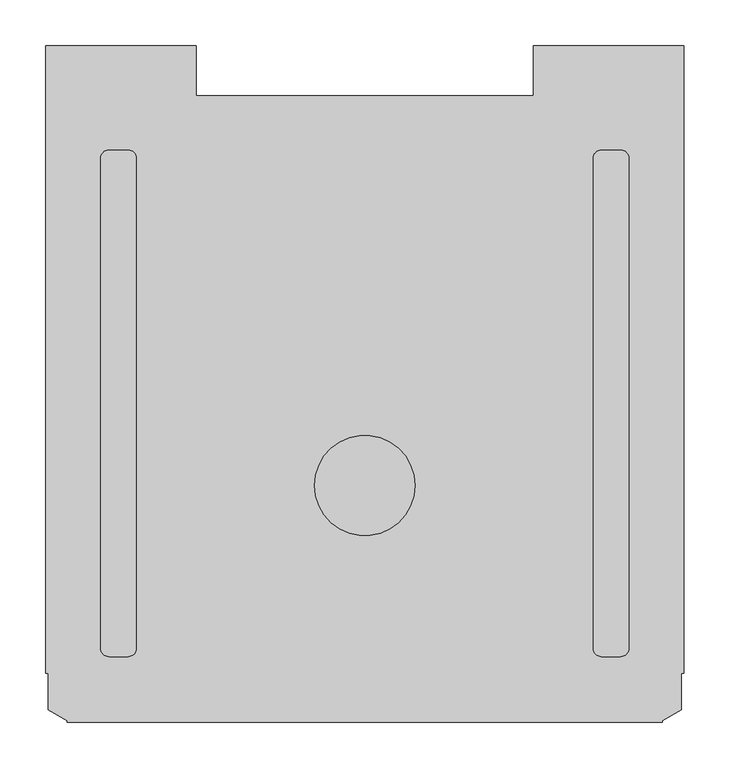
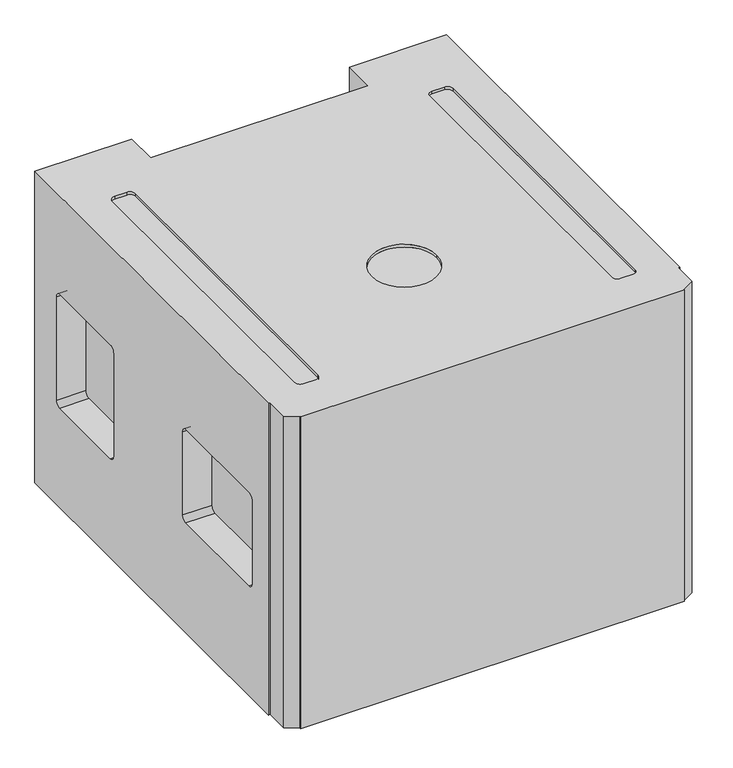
"""IFC4 building model written with IfcOpenShell, lengths in millimetres: proxy geometry, d&b SL-Series XSL-GSUB : XSL-GSUB."""

import ifcopenshell
import ifcopenshell.guid

model = None  # the IFC model being written
_history = None  # IfcOwnerHistory: only IFC2X3 demands one
_inside = {}  # id of a spatial element -> (the spatial element, [elements in it])
_under = {}  # id of a project, library or spatial element -> (it, [spatial elements below it])
_declared = {}  # id of a project -> (the project, [libraries it declares])
_typed = {}  # id of a type object -> (the type object, [elements of that type])
_made_of = {}  # id of a material, layer set ... -> (it, [elements and type objects made of it])


def new_model(schema):
    """Start an empty IFC model of exactly this schema.

    Asked for "IFC4X3", IfcOpenShell would pick the latest addendum, in which some entities
    have other attributes; the version numbers below select the first issue.
    IFC2X3 requires an IfcOwnerHistory on every rooted entity: one is made here for all.
    """
    global model, _history
    if schema == "IFC4X3":
        model = ifcopenshell.file(schema_version=(4, 3, 0, 0))
    else:
        model = ifcopenshell.file(schema=schema)
    _inside.clear()
    _under.clear()
    _declared.clear()
    _typed.clear()
    _made_of.clear()
    _history = None
    if model.schema == "IFC2X3":
        org = make("IfcOrganization", Name="unknown")
        user = make(
            "IfcPersonAndOrganization",
            ThePerson=make("IfcPerson", FamilyName="unknown"),
            TheOrganization=org,
        )
        app = make(
            "IfcApplication",
            ApplicationDeveloper=org,
            Version="unknown",
            ApplicationFullName="unknown",
            ApplicationIdentifier="unknown",
        )
        _history = make(
            "IfcOwnerHistory",
            OwningUser=user,
            OwningApplication=app,
            ChangeAction="ADDED",
            CreationDate=0,
        )
    return model


def make(cls, **values):
    """One entity of the class cls with the attributes given. An attribute that is None is left unset."""
    return model.create_entity(
        cls, **{name: value for name, value in values.items() if value is not None}
    )


def rooted(cls, **values):
    """An entity with a GlobalId (a new one), such as an element, a storey or a relation."""
    return make(cls, GlobalId=ifcopenshell.guid.new(), OwnerHistory=_history, **values)


def si_unit(unit_type, name, prefix=None):
    """IfcSIUnit, for example si_unit("LENGTHUNIT", "METRE", prefix="MILLI")."""
    return make("IfcSIUnit", UnitType=unit_type, Prefix=prefix, Name=name)


def assignment(units):
    """IfcUnitAssignment: the units of a project."""
    return None if units is None else make("IfcUnitAssignment", Units=units)


def point(xyz):
    """IfcCartesianPoint."""
    return None if xyz is None else make("IfcCartesianPoint", Coordinates=xyz)


def direction(xyz):
    """IfcDirection."""
    return None if xyz is None else make("IfcDirection", DirectionRatios=xyz)


def frame(location, z_axis=None, x_axis=None):
    """IfcAxis2Placement3D, a coordinate frame: its origin and axes. An axis left out is left unset."""
    return make(
        "IfcAxis2Placement3D",
        Location=point(location),
        Axis=direction(z_axis),
        RefDirection=direction(x_axis),
    )


def origin():
    """The frame at (0, 0, 0) with its axes left unset."""
    return frame((0.0, 0.0, 0.0))


def place(relative_to, where):
    """IfcLocalPlacement: puts the frame where relative to a parent placement (None: the world)."""
    return make(
        "IfcLocalPlacement", PlacementRelTo=relative_to, RelativePlacement=where
    )


def context(
    kind, dimensions, precision=None, world=None, true_north=None, identifier=None
):
    """IfcGeometricRepresentationContext, for example the 3D "Model" context."""
    return make(
        "IfcGeometricRepresentationContext",
        ContextIdentifier=identifier,
        ContextType=kind,
        CoordinateSpaceDimension=dimensions,
        Precision=precision,
        WorldCoordinateSystem=world,
        TrueNorth=true_north,
    )


def project(units=None, contexts=None):
    """IfcProject with its units and contexts."""
    return rooted(
        "IfcProject",
        Name="project",
        RepresentationContexts=contexts,
        UnitsInContext=assignment(units),
    )


def spatial(cls, under=None, at=None, **own):
    """A site, building, storey or space (cls), placed at a placement, below another one or the project."""
    s = rooted(cls, ObjectPlacement=at, **own)
    if under is not None:
        _under.setdefault(under.id(), (under, []))[1].append(s)
    return s


def polyline(points):
    """IfcPolyline through the points."""
    return make("IfcPolyline", Points=[point(p) for p in points])


def circle_curve(where, radius):
    """IfcCircle in the frame where."""
    return make("IfcCircle", Position=where, Radius=radius)


def outline(outer, holes=None, kind="AREA"):
    """IfcArbitraryClosedProfileDef: a profile drawn as a closed curve; with holes, ...WithVoids."""
    if holes is None:
        return make("IfcArbitraryClosedProfileDef", ProfileType=kind, OuterCurve=outer)
    return make(
        "IfcArbitraryProfileDefWithVoids",
        ProfileType=kind,
        OuterCurve=outer,
        InnerCurves=holes,
    )


def extrude(swept, where, along, depth):
    """IfcExtrudedAreaSolid: the profile swept, set in the frame where, extruded along a direction by depth."""
    return make(
        "IfcExtrudedAreaSolid",
        SweptArea=swept,
        Position=where,
        ExtrudedDirection=direction(along),
        Depth=depth,
    )


def shape(context_of_items, identifier, shape_type, items):
    """IfcShapeRepresentation: the items that make up one representation, for example the "Body"."""
    return make(
        "IfcShapeRepresentation",
        ContextOfItems=context_of_items,
        RepresentationIdentifier=identifier,
        RepresentationType=shape_type,
        Items=items,
    )


def source(mapping_origin, context_of_items, identifier, shape_type, items):
    """IfcRepresentationMap: a shape defined once, which mapped items show again and again."""
    return make(
        "IfcRepresentationMap",
        MappingOrigin=mapping_origin,
        MappedRepresentation=shape(context_of_items, identifier, shape_type, items),
    )


def transform(
    local_origin,
    x_axis=None,
    y_axis=None,
    z_axis=None,
    scale=None,
    scale2=None,
    scale3=None,
    uniform=True,
):
    """IfcCartesianTransformationOperator3D, or its non-uniform kind. x_axis, y_axis, z_axis: its Axis1, 2, 3."""
    if uniform:
        return make(
            "IfcCartesianTransformationOperator3D",
            Axis1=direction(x_axis),
            Axis2=direction(y_axis),
            LocalOrigin=point(local_origin),
            Scale=scale,
            Axis3=direction(z_axis),
        )
    return make(
        "IfcCartesianTransformationOperator3DnonUniform",
        Axis1=direction(x_axis),
        Axis2=direction(y_axis),
        LocalOrigin=point(local_origin),
        Scale=scale,
        Axis3=direction(z_axis),
        Scale2=scale2,
        Scale3=scale3,
    )


def mapped(mapping_source, mapping_target):
    """IfcMappedItem: shows the shape of a source again, moved by a transform."""
    return make(
        "IfcMappedItem", MappingSource=mapping_source, MappingTarget=mapping_target
    )


def made_of(thing, what):
    """Note that an element or type object is made of a material, layer set ...; save() writes the relation."""
    if what is not None:
        _made_of.setdefault(what.id(), (what, []))[1].append(thing)
    return thing


def element(
    cls,
    number,
    at=None,
    inside=None,
    cuts=None,
    type_object=None,
    material=None,
    context=None,
    identifier="Body",
    shape_type=None,
    held_by="IfcProductDefinitionShape",
    body=None,
    shapes=None,
    **own,
):
    """One element of the class cls, such as IfcWall. Its Tag is "e" and its number.

    at: its placement. inside: the storey or other place that contains it. cuts: it is an
    opening in that element (IfcRelVoidsElement). A single representation is given by context,
    identifier, shape_type and body (its items); several are given by shapes. held_by: the class
    of the entity that holds the representations. save() writes the other relations.
    """
    e = rooted(cls, Tag="e%d" % number, ObjectPlacement=at, **own)
    if body is not None:
        shapes = [shape(context, identifier, shape_type, body)]
    if shapes is not None:
        e.Representation = make(held_by, Representations=shapes)
    if inside is not None:
        _inside.setdefault(inside.id(), (inside, []))[1].append(e)
    if cuts is not None:
        rooted(
            "IfcRelVoidsElement", RelatingBuildingElement=cuts, RelatedOpeningElement=e
        )
    if type_object is not None:
        _typed.setdefault(type_object.id(), (type_object, []))[1].append(e)
    return made_of(e, material)


def aggregate(whole, parts):
    """IfcRelAggregates: a whole, such as a stair, and the parts it consists of."""
    return rooted("IfcRelAggregates", RelatingObject=whole, RelatedObjects=parts)


def save(model, path):
    """Write the relations noted so far, then the file.

    IfcRelAggregates (storeys below a building ...), IfcRelContainedInSpatialStructure (elements
    in a storey), IfcRelDefinesByType, IfcRelAssociatesMaterial and IfcRelDeclares: one each for
    every whole, place, type object, material and project.
    """
    for whole, parts in _under.values():
        aggregate(whole, parts)
    for where, things in _inside.values():
        rooted(
            "IfcRelContainedInSpatialStructure",
            RelatedElements=things,
            RelatingStructure=where,
        )
    for kind, things in _typed.values():
        rooted("IfcRelDefinesByType", RelatedObjects=things, RelatingType=kind)
    for what, things in _made_of.values():
        rooted("IfcRelAssociatesMaterial", RelatedObjects=things, RelatingMaterial=what)
    for by, libraries in _declared.values():
        rooted("IfcRelDeclares", RelatingContext=by, RelatedDefinitions=libraries)
    model.write(path)


def plane_surface(at):
    """IfcPlane: the flat surface through the origin of the frame at, square to its z axis."""
    return make("IfcPlane", Position=at)


def revolved_surface(curve, axis_point, axis_direction):
    """IfcSurfaceOfRevolution: the curve turned about the line through axis_point along axis_direction."""
    return make(
        "IfcSurfaceOfRevolution",
        SweptCurve=make("IfcArbitraryOpenProfileDef", ProfileType="CURVE", Curve=curve),
        AxisPosition=make("IfcAxis1Placement", Location=point(axis_point), Axis=direction(axis_direction)),
    )


def advanced_brep(points, edges, surfaces, faces):
    """IfcAdvancedBrep: a solid bounded by faces that lie on surfaces and meet in shared edges.

    An edge is (start, end): straight between two places in points (the first is 0);
    or (start, end, curve); or (start, end, curve, False) where it runs against its curve.
    A face is (place in surfaces, loops), or (place, loops, False) where it looks against
    its surface's normal. A loop lists edges by number (the first is 1), with a minus sign
    where the edge is run from its end to its start. The first loop is the outer one.
    """
    corners = [point(p) for p in points]
    vertices = [make("IfcVertexPoint", VertexGeometry=c) for c in corners]
    made = []
    for start, end, *more in edges:
        made.append(
            make(
                "IfcEdgeCurve",
                EdgeStart=vertices[start],
                EdgeEnd=vertices[end],
                EdgeGeometry=more[0] if more else make("IfcPolyline", Points=[corners[start], corners[end]]),
                SameSense=more[1] if len(more) > 1 else True,
            )
        )
    hull = []
    for where, loops, *sense in faces:
        bounds = []
        for j, loop in enumerate(loops):
            ring = [make("IfcOrientedEdge", EdgeElement=made[abs(k) - 1], Orientation=k > 0) for k in loop]
            bounds.append(
                make(
                    "IfcFaceOuterBound" if j == 0 else "IfcFaceBound",
                    Bound=make("IfcEdgeLoop", EdgeList=ring),
                    Orientation=True,
                )
            )
        hull.append(make("IfcAdvancedFace", Bounds=bounds, FaceSurface=surfaces[where], SameSense=sense[0] if sense else True))
    return make("IfcAdvancedBrep", Outer=make("IfcClosedShell", CfsFaces=hull))


def communication_devices_2013cf00(model_context):
    return source(origin(), model_context, "Body", "SolidModel", [
        advanced_brep(
        [(2173.5, -29.2494027, 5.0), (2173.5, -27.5173519, 5.0), (2153.0, -15.6816714, 5.0), (2153.0, 24.2505973, 5.0), (2150.0, 24.2505973, 5.0), (2150.0, 712.2505973, 5.0), (2315.0, 712.2505973, 5.0), (2315.0, 657.2503532, 5.0), (2685.0, 657.2503532, 5.0), (2685.0, 712.2505973, 5.0), (2850.0, 712.2505973, 5.0), (2850.0, 24.2505973, 5.0), (2847.0, 24.2505973, 5.0), (2847.0, -15.6816714, 5.0), (2826.5, -27.5173519, 5.0), (2826.5, -29.2494027, 5.0), (2249.5, 588.7503532, 560.0), (2240.5, 597.7503532, 560.0), (2219.5, 597.7503532, 560.0), (2210.5, 588.7503532, 560.0), (2210.5, 51.7505973, 560.0), (2219.5, 42.7505973, 560.0), (2240.5, 42.7505973, 560.0), (2249.5, 51.7505973, 560.0), (2780.5, 597.7503532, 560.0), (2759.5, 597.7503532, 560.0), (2750.5, 588.7503532, 560.0), (2750.5, 51.7505973, 560.0), (2759.5, 42.7505973, 560.0), (2780.5, 42.7505973, 560.0), (2789.5, 51.7505973, 560.0), (2789.5, 588.7503532, 560.0), (2555.0, 230.2504752, 560.0), (2445.0, 230.2504752, 560.0), (2315.0, 712.2505973, 565.0), (2150.0, 712.2505973, 565.0), (2150.0, 24.2505973, 565.0), (2153.0, 24.2505973, 565.0), (2153.0, -15.6816714, 565.0), (2173.5, -27.5173519, 565.0), (2173.5, -29.2494027, 565.0), (2826.5, -29.2494027, 565.0), (2826.5, -27.5173519, 565.0), (2847.0, -15.6816714, 565.0), (2847.0, 24.2505973, 565.0), (2850.0, 24.2505973, 565.0), (2850.0, 712.2505973, 565.0), (2685.0, 712.2505973, 565.0), (2685.0, 657.2503532, 565.0), (2315.0, 657.2503532, 565.0), (2240.5, 597.7503532, 565.0), (2249.5, 588.7503532, 565.0), (2249.5, 51.7505973, 565.0), (2240.5, 42.7505973, 565.0), (2219.5, 42.7505973, 565.0), (2210.5, 51.7505973, 565.0), (2210.5, 588.7503532, 565.0), (2219.5, 597.7503532, 565.0), (2759.5, 597.7503532, 565.0), (2780.5, 597.7503532, 565.0), (2789.5, 588.7503532, 565.0), (2789.5, 51.7505973, 565.0), (2780.5, 42.7505973, 565.0), (2759.5, 42.7505973, 565.0), (2750.5, 51.7505973, 565.0), (2750.5, 588.7503532, 565.0), (2445.0, 230.2504752, 565.0), (2555.0, 230.2504752, 565.0), (2850.0, 639.2505973, 387.5), (2850.0, 648.2505973, 378.5), (2850.0, 648.2505973, 192.5), (2850.0, 639.2505973, 183.5), (2850.0, 489.7505973, 183.5), (2850.0, 480.7505973, 192.5), (2850.0, 480.7505973, 378.5), (2850.0, 489.7505973, 387.5), (2850.0, 81.7505973, 370.0), (2850.0, 267.7505973, 370.0), (2850.0, 276.7505973, 361.0), (2850.0, 276.7505973, 211.5), (2850.0, 267.7505973, 202.5), (2850.0, 81.7505973, 202.5), (2850.0, 72.7505973, 211.5), (2850.0, 72.7505973, 361.0), (2800.0, 639.2505973, 387.5), (2800.0, 648.2505973, 378.5), (2800.0, 648.2505973, 192.5), (2800.0, 639.2505973, 183.5), (2800.0, 489.7505973, 183.5), (2800.0, 480.7505973, 192.5), (2800.0, 480.7505973, 378.5), (2800.0, 489.7505973, 387.5), (2800.0, 81.7505973, 370.0), (2800.0, 267.7505973, 370.0), (2800.0, 276.7505973, 361.0), (2800.0, 276.7505973, 211.5), (2800.0, 267.7505973, 202.5), (2800.0, 81.7505973, 202.5), (2800.0, 72.7505973, 211.5), (2800.0, 72.7505973, 361.0), (2782.0, 707.2505973, 232.5000305), (2774.0, 707.2505973, 224.5000305), (2726.0, 707.2505973, 224.5000305), (2718.0, 707.2505973, 232.5000305), (2718.0, 707.2505973, 337.500061), (2726.0, 707.2505973, 345.500061), (2774.0, 707.2505973, 345.500061), (2782.0, 707.2505973, 337.500061), (2218.0, 707.2505973, 232.5000305), (2218.0, 707.2505973, 337.500061), (2226.0, 707.2505973, 345.500061), (2274.0, 707.2505973, 345.500061), (2282.0, 707.2505973, 337.500061), (2282.0, 707.2505973, 232.5000305), (2274.0, 707.2505973, 224.5000305), (2226.0, 707.2505973, 224.5000305), (2782.0, 712.2505973, 232.5000305), (2774.0, 712.2505973, 224.5000305), (2726.0, 712.2505973, 224.5000305), (2718.0, 712.2505973, 232.5000305), (2718.0, 712.2505973, 337.500061), (2726.0, 712.2505973, 345.500061), (2774.0, 712.2505973, 345.500061), (2782.0, 712.2505973, 337.500061), (2461.0, 657.2503532, 555.0), (2461.0, 657.2503532, 461.160254), (2461.0, 632.2503532, 461.160254), (2461.0, 632.2503532, 555.0), (2685.0, 657.2503532, 555.0), (2539.0, 657.2503532, 555.0), (2539.0, 657.2503532, 461.160254), (2685.0, 657.2503532, 376.8671147), (2685.0, 657.2503532, 368.2068607), (2539.0, 657.2503532, 452.5), (2539.0, 657.2503532, 117.5), (2685.0, 657.2503532, 201.7931393), (2685.0, 657.2503532, 193.1328853), (2539.0, 657.2503532, 108.839746), (2539.0, 657.2503532, 15.0), (2685.0, 657.2503532, 15.0), (2315.0, 657.2503532, 15.0), (2461.0, 657.2503532, 15.0), (2461.0, 657.2503532, 108.839746), (2315.0, 657.2503532, 193.1328853), (2315.0, 657.2503532, 201.7931393), (2461.0, 657.2503532, 117.5), (2461.0, 657.2503532, 452.5), (2315.0, 657.2503532, 368.2068607), (2315.0, 657.2503532, 376.8671147), (2315.0, 657.2503532, 555.0), (2218.0, 712.2505973, 337.500061), (2218.0, 712.2505973, 232.5000305), (2226.0, 712.2505973, 224.5000305), (2274.0, 712.2505973, 224.5000305), (2282.0, 712.2505973, 232.5000305), (2282.0, 712.2505973, 337.500061), (2274.0, 712.2505973, 345.500061), (2226.0, 712.2505973, 345.500061), (2200.0, 639.2505973, 387.5), (2200.0, 648.2505973, 378.5), (2200.0, 648.2505973, 192.5), (2200.0, 639.2505973, 183.5), (2200.0, 489.7505973, 183.5), (2200.0, 480.7505973, 192.5), (2200.0, 480.7505973, 378.5), (2200.0, 489.7505973, 387.5), (2200.0, 81.7505973, 370.0), (2200.0, 267.7505973, 370.0), (2200.0, 276.7505973, 361.0), (2200.0, 276.7505973, 211.5), (2200.0, 267.7505973, 202.5), (2200.0, 81.7505973, 202.5), (2200.0, 72.7505973, 211.5), (2200.0, 72.7505973, 361.0), (2685.0, 632.2503532, 15.0), (2685.0, 632.2503532, 193.1328853), (2685.0, 632.2503532, 201.7931393), (2685.0, 632.2503532, 368.2068607), (2685.0, 632.2503532, 376.8671147), (2685.0, 632.2503532, 555.0), (2539.0, 632.2503532, 15.0), (2539.0, 632.2503532, 108.839746), (2539.0, 632.2503532, 117.5), (2539.0, 632.2503532, 452.5), (2539.0, 632.2503532, 461.160254), (2539.0, 632.2503532, 555.0), (2315.0, 632.2503532, 376.8671147), (2315.0, 632.2503532, 555.0), (2315.0, 632.2503532, 201.7931393), (2315.0, 632.2503532, 368.2068607), (2461.0, 632.2503532, 452.5), (2461.0, 632.2503532, 117.5), (2315.0, 632.2503532, 15.0), (2315.0, 632.2503532, 193.1328853), (2461.0, 632.2503532, 108.839746), (2461.0, 632.2503532, 15.0), (2150.0, 639.2505973, 387.5), (2150.0, 489.7505973, 387.5), (2150.0, 480.7505973, 378.5), (2150.0, 480.7505973, 192.5), (2150.0, 489.7505973, 183.5), (2150.0, 639.2505973, 183.5), (2150.0, 648.2505973, 192.5), (2150.0, 648.2505973, 378.5), (2150.0, 81.7505973, 370.0), (2150.0, 72.7505973, 361.0), (2150.0, 72.7505973, 211.5), (2150.0, 81.7505973, 202.5), (2150.0, 267.7505973, 202.5), (2150.0, 276.7505973, 211.5), (2150.0, 276.7505973, 361.0), (2150.0, 267.7505973, 370.0)],
        [
            (0, 1),
            (1, 2),
            (2, 3),
            (3, 4),
            (4, 5),
            (5, 6),
            (6, 7),
            (7, 8),
            (8, 9),
            (9, 10),
            (10, 11),
            (11, 12),
            (12, 13),
            (13, 14),
            (14, 15),
            (15, 0),
            (16, 17, circle_curve(frame((2240.5, 588.7503532, 560.0), z_axis=(0.0, 0.0, 1.0), x_axis=(0.0, 1.0, 0.0)), 9.0)),
            (17, 18),
            (18, 19, circle_curve(frame((2219.5, 588.7503532, 560.0), z_axis=(0.0, 0.0, 1.0), x_axis=(0.0, 1.0, 0.0)), 9.0)),
            (19, 20),
            (20, 21, circle_curve(frame((2219.5, 51.7505973, 560.0), z_axis=(0.0, 0.0, 1.0), x_axis=(0.0, 1.0, 0.0)), 9.0)),
            (21, 22),
            (22, 23, circle_curve(frame((2240.5, 51.7505973, 560.0), z_axis=(0.0, 0.0, 1.0), x_axis=(0.0, 1.0, 0.0)), 9.0)),
            (23, 16),
            (24, 25),
            (25, 26, circle_curve(frame((2759.5, 588.7503532, 560.0), z_axis=(0.0, 0.0, 1.0), x_axis=(0.0, 1.0, 0.0)), 9.0)),
            (26, 27),
            (27, 28, circle_curve(frame((2759.5, 51.7505973, 560.0), z_axis=(0.0, 0.0, 1.0), x_axis=(0.0, 1.0, 0.0)), 9.0)),
            (28, 29),
            (29, 30, circle_curve(frame((2780.5, 51.7505973, 560.0), z_axis=(0.0, 0.0, 1.0), x_axis=(0.0, 1.0, 0.0)), 9.0)),
            (30, 31),
            (31, 24, circle_curve(frame((2780.5, 588.7503532, 560.0), z_axis=(0.0, 0.0, 1.0), x_axis=(0.0, 1.0, 0.0)), 9.0)),
            (32, 33, circle_curve(frame((2500.0, 230.2504752, 560.0), z_axis=(0.0, 0.0, 1.0), x_axis=(1.0, 0.0, 0.0)), 55.0)),
            (33, 32, circle_curve(frame((2500.0, 230.2504752, 560.0), z_axis=(0.0, 0.0, 1.0), x_axis=(1.0, 0.0, 0.0)), 55.0)),
            (34, 35),
            (35, 36),
            (36, 37),
            (37, 38),
            (38, 39),
            (39, 40),
            (40, 41),
            (41, 42),
            (42, 43),
            (43, 44),
            (44, 45),
            (45, 46),
            (46, 47),
            (47, 48),
            (48, 49),
            (49, 34),
            (50, 51, circle_curve(frame((2240.5, 588.7503532, 565.0), z_axis=(0.0, 0.0, -1.0), x_axis=(0.0, 1.0, 0.0)), 9.0)),
            (51, 52),
            (52, 53, circle_curve(frame((2240.5, 51.7505973, 565.0), z_axis=(0.0, 0.0, -1.0), x_axis=(0.0, 1.0, 0.0)), 9.0)),
            (53, 54),
            (54, 55, circle_curve(frame((2219.5, 51.7505973, 565.0), z_axis=(0.0, 0.0, -1.0), x_axis=(0.0, 1.0, 0.0)), 9.0)),
            (55, 56),
            (56, 57, circle_curve(frame((2219.5, 588.7503532, 565.0), z_axis=(0.0, 0.0, -1.0), x_axis=(0.0, 1.0, 0.0)), 9.0)),
            (57, 50),
            (58, 59),
            (59, 60, circle_curve(frame((2780.5, 588.7503532, 565.0), z_axis=(0.0, 0.0, -1.0), x_axis=(0.0, 1.0, 0.0)), 9.0)),
            (60, 61),
            (61, 62, circle_curve(frame((2780.5, 51.7505973, 565.0), z_axis=(0.0, 0.0, -1.0), x_axis=(0.0, 1.0, 0.0)), 9.0)),
            (62, 63),
            (63, 64, circle_curve(frame((2759.5, 51.7505973, 565.0), z_axis=(0.0, 0.0, -1.0), x_axis=(0.0, 1.0, 0.0)), 9.0)),
            (64, 65),
            (65, 58, circle_curve(frame((2759.5, 588.7503532, 565.0), z_axis=(0.0, 0.0, -1.0), x_axis=(0.0, 1.0, 0.0)), 9.0)),
            (66, 67, circle_curve(frame((2500.0, 230.2504752, 565.0), z_axis=(0.0, 0.0, -1.0), x_axis=(1.0, 0.0, 0.0)), 55.0)),
            (67, 66, circle_curve(frame((2500.0, 230.2504752, 565.0), z_axis=(0.0, 0.0, -1.0), x_axis=(1.0, 0.0, 0.0)), 55.0)),
            (50, 17),
            (16, 51),
            (23, 52),
            (22, 53),
            (21, 54),
            (20, 55),
            (19, 56),
            (18, 57),
            (10, 46),
            (45, 11),
            (68, 69, circle_curve(frame((2850.0, 639.2505973, 378.5), z_axis=(-1.0, 0.0, 0.0), x_axis=(0.0, 1.0, 0.0)), 9.0)),
            (69, 70),
            (70, 71, circle_curve(frame((2850.0, 639.2505973, 192.5), z_axis=(-1.0, 0.0, 0.0), x_axis=(0.0, 1.0, 0.0)), 9.0)),
            (71, 72),
            (72, 73, circle_curve(frame((2850.0, 489.7505973, 192.5), z_axis=(-1.0, 0.0, 0.0), x_axis=(0.0, 1.0, 0.0)), 9.0)),
            (73, 74),
            (74, 75, circle_curve(frame((2850.0, 489.7505973, 378.5), z_axis=(-1.0, 0.0, 0.0), x_axis=(0.0, 1.0, 0.0)), 9.0)),
            (75, 68),
            (76, 77),
            (77, 78, circle_curve(frame((2850.0, 267.7505973, 361.0), z_axis=(-1.0, 0.0, 0.0), x_axis=(0.0, 1.0, 0.0)), 9.0)),
            (78, 79),
            (79, 80, circle_curve(frame((2850.0, 267.7505973, 211.5), z_axis=(-1.0, 0.0, 0.0), x_axis=(0.0, 1.0, 0.0)), 9.0)),
            (80, 81),
            (81, 82, circle_curve(frame((2850.0, 81.7505973, 211.5), z_axis=(-1.0, 0.0, 0.0), x_axis=(0.0, 1.0, 0.0)), 9.0)),
            (82, 83),
            (83, 76, circle_curve(frame((2850.0, 81.7505973, 361.0), z_axis=(-1.0, 0.0, 0.0), x_axis=(0.0, 1.0, 0.0)), 9.0)),
            (44, 12),
            (68, 84),
            (84, 85, circle_curve(frame((2800.0, 639.2505973, 378.5), z_axis=(-1.0, 0.0, 0.0), x_axis=(0.0, 1.0, 0.0)), 9.0)),
            (85, 69),
            (85, 86),
            (86, 70),
            (86, 87, circle_curve(frame((2800.0, 639.2505973, 192.5), z_axis=(-1.0, 0.0, 0.0), x_axis=(0.0, 1.0, 0.0)), 9.0)),
            (87, 71),
            (87, 88),
            (88, 72),
            (88, 89, circle_curve(frame((2800.0, 489.7505973, 192.5), z_axis=(-1.0, 0.0, 0.0), x_axis=(0.0, 1.0, 0.0)), 9.0)),
            (89, 73),
            (89, 90),
            (90, 74),
            (90, 91, circle_curve(frame((2800.0, 489.7505973, 378.5), z_axis=(-1.0, 0.0, 0.0), x_axis=(0.0, 1.0, 0.0)), 9.0)),
            (91, 75),
            (91, 84),
            (76, 92),
            (92, 93),
            (93, 77),
            (93, 94, circle_curve(frame((2800.0, 267.7505973, 361.0), z_axis=(-1.0, 0.0, 0.0), x_axis=(0.0, 1.0, 0.0)), 9.0)),
            (94, 78),
            (94, 95),
            (95, 79),
            (95, 96, circle_curve(frame((2800.0, 267.7505973, 211.5), z_axis=(-1.0, 0.0, 0.0), x_axis=(0.0, 1.0, 0.0)), 9.0)),
            (96, 80),
            (96, 97),
            (97, 81),
            (97, 98, circle_curve(frame((2800.0, 81.7505973, 211.5), z_axis=(-1.0, 0.0, 0.0), x_axis=(0.0, 1.0, 0.0)), 9.0)),
            (98, 82),
            (98, 99),
            (99, 83),
            (99, 92, circle_curve(frame((2800.0, 81.7505973, 361.0), z_axis=(-1.0, 0.0, 0.0), x_axis=(0.0, 1.0, 0.0)), 9.0)),
            (100, 101, circle_curve(frame((2774.0, 707.2505973, 232.5000305), z_axis=(0.0, 1.0, 0.0), x_axis=(-1.0, 0.0, 0.0)), 8.0)),
            (101, 102),
            (102, 103, circle_curve(frame((2726.0, 707.2505973, 232.5000305), z_axis=(0.0, 1.0, 0.0), x_axis=(-1.0, 0.0, 0.0)), 8.0)),
            (103, 104),
            (104, 105, circle_curve(frame((2726.0, 707.2505973, 337.500061), z_axis=(0.0, 1.0, 0.0), x_axis=(-1.0, 0.0, 0.0)), 8.0)),
            (105, 106),
            (106, 107, circle_curve(frame((2774.0, 707.2505973, 337.500061), z_axis=(0.0, 1.0, 0.0), x_axis=(-1.0, 0.0, 0.0)), 8.0)),
            (107, 100),
            (108, 109),
            (109, 110, circle_curve(frame((2226.0, 707.2505973, 337.500061), z_axis=(0.0, 1.0, 0.0), x_axis=(1.0, 0.0, 0.0)), 8.0)),
            (110, 111),
            (111, 112, circle_curve(frame((2274.0, 707.2505973, 337.500061), z_axis=(0.0, 1.0, 0.0), x_axis=(1.0, 0.0, 0.0)), 8.0)),
            (112, 113),
            (113, 114, circle_curve(frame((2274.0, 707.2505973, 232.5000305), z_axis=(0.0, 1.0, 0.0), x_axis=(1.0, 0.0, 0.0)), 8.0)),
            (114, 115),
            (115, 108, circle_curve(frame((2226.0, 707.2505973, 232.5000305), z_axis=(0.0, 1.0, 0.0), x_axis=(1.0, 0.0, 0.0)), 8.0)),
            (100, 116),
            (116, 117, circle_curve(frame((2774.0, 712.2505973, 232.5000305), z_axis=(0.0, 1.0, 0.0), x_axis=(-1.0, 0.0, 0.0)), 8.0)),
            (117, 101),
            (117, 118),
            (118, 102),
            (118, 119, circle_curve(frame((2726.0, 712.2505973, 232.5000305), z_axis=(0.0, 1.0, 0.0), x_axis=(-1.0, 0.0, 0.0)), 8.0)),
            (119, 103),
            (119, 120),
            (120, 104),
            (120, 121, circle_curve(frame((2726.0, 712.2505973, 337.500061), z_axis=(0.0, 1.0, 0.0), x_axis=(-1.0, 0.0, 0.0)), 8.0)),
            (121, 105),
            (121, 122),
            (122, 106),
            (122, 123, circle_curve(frame((2774.0, 712.2505973, 337.500061), z_axis=(0.0, 1.0, 0.0), x_axis=(-1.0, 0.0, 0.0)), 8.0)),
            (123, 107),
            (123, 116),
            (124, 125),
            (125, 126),
            (126, 127),
            (127, 124),
            (48, 128),
            (128, 129),
            (129, 130),
            (130, 131),
            (131, 132),
            (132, 133),
            (133, 134),
            (134, 135),
            (135, 136),
            (136, 137),
            (137, 138),
            (138, 139),
            (139, 8),
            (7, 140),
            (140, 141),
            (141, 142),
            (142, 143),
            (143, 144),
            (144, 145),
            (145, 146),
            (146, 147),
            (147, 148),
            (148, 125),
            (124, 149),
            (149, 49),
            (58, 25),
            (24, 59),
            (31, 60),
            (30, 61),
            (29, 62),
            (28, 63),
            (27, 64),
            (26, 65),
            (5, 35),
            (34, 6),
            (150, 151),
            (151, 152, circle_curve(frame((2226.0, 712.2505973, 232.5000305), z_axis=(0.0, -1.0, 0.0), x_axis=(1.0, 0.0, 0.0)), 8.0)),
            (152, 153),
            (153, 154, circle_curve(frame((2274.0, 712.2505973, 232.5000305), z_axis=(0.0, -1.0, 0.0), x_axis=(1.0, 0.0, 0.0)), 8.0)),
            (154, 155),
            (155, 156, circle_curve(frame((2274.0, 712.2505973, 337.500061), z_axis=(0.0, -1.0, 0.0), x_axis=(1.0, 0.0, 0.0)), 8.0)),
            (156, 157),
            (157, 150, circle_curve(frame((2226.0, 712.2505973, 337.500061), z_axis=(0.0, -1.0, 0.0), x_axis=(1.0, 0.0, 0.0)), 8.0)),
            (158, 159, circle_curve(frame((2200.0, 639.2505973, 378.5), z_axis=(-1.0, 0.0, 0.0), x_axis=(0.0, 1.0, 0.0)), 9.0)),
            (159, 160),
            (160, 161, circle_curve(frame((2200.0, 639.2505973, 192.5), z_axis=(-1.0, 0.0, 0.0), x_axis=(0.0, 1.0, 0.0)), 9.0)),
            (161, 162),
            (162, 163, circle_curve(frame((2200.0, 489.7505973, 192.5), z_axis=(-1.0, 0.0, 0.0), x_axis=(0.0, 1.0, 0.0)), 9.0)),
            (163, 164),
            (164, 165, circle_curve(frame((2200.0, 489.7505973, 378.5), z_axis=(-1.0, 0.0, 0.0), x_axis=(0.0, 1.0, 0.0)), 9.0)),
            (165, 158),
            (166, 167),
            (167, 168, circle_curve(frame((2200.0, 267.7505973, 361.0), z_axis=(-1.0, 0.0, 0.0), x_axis=(0.0, 1.0, 0.0)), 9.0)),
            (168, 169),
            (169, 170, circle_curve(frame((2200.0, 267.7505973, 211.5), z_axis=(-1.0, 0.0, 0.0), x_axis=(0.0, 1.0, 0.0)), 9.0)),
            (170, 171),
            (171, 172, circle_curve(frame((2200.0, 81.7505973, 211.5), z_axis=(-1.0, 0.0, 0.0), x_axis=(0.0, 1.0, 0.0)), 9.0)),
            (172, 173),
            (173, 166, circle_curve(frame((2200.0, 81.7505973, 361.0), z_axis=(-1.0, 0.0, 0.0), x_axis=(0.0, 1.0, 0.0)), 9.0)),
            (15, 41),
            (40, 0),
            (9, 47),
            (139, 174),
            (174, 175),
            (175, 136),
            (135, 176),
            (176, 177),
            (177, 132),
            (131, 178),
            (178, 179),
            (179, 128),
            (174, 180),
            (180, 181),
            (181, 175),
            (176, 182),
            (182, 183),
            (183, 177),
            (178, 184),
            (184, 185),
            (185, 179),
            (186, 187),
            (187, 127),
            (126, 186),
            (188, 189),
            (189, 190),
            (190, 191),
            (191, 188),
            (192, 193),
            (193, 194),
            (194, 195),
            (195, 192),
            (149, 187),
            (186, 148),
            (147, 189),
            (188, 144),
            (143, 193),
            (192, 140),
            (4, 36),
            (196, 197),
            (197, 198, circle_curve(frame((2150.0, 489.7505973, 378.5), z_axis=(1.0, 0.0, 0.0), x_axis=(0.0, 1.0, 0.0)), 9.0)),
            (198, 199),
            (199, 200, circle_curve(frame((2150.0, 489.7505973, 192.5), z_axis=(1.0, 0.0, 0.0), x_axis=(0.0, 1.0, 0.0)), 9.0)),
            (200, 201),
            (201, 202, circle_curve(frame((2150.0, 639.2505973, 192.5), z_axis=(1.0, 0.0, 0.0), x_axis=(0.0, 1.0, 0.0)), 9.0)),
            (202, 203),
            (203, 196, circle_curve(frame((2150.0, 639.2505973, 378.5), z_axis=(1.0, 0.0, 0.0), x_axis=(0.0, 1.0, 0.0)), 9.0)),
            (204, 205, circle_curve(frame((2150.0, 81.7505973, 361.0), z_axis=(1.0, 0.0, 0.0), x_axis=(0.0, 1.0, 0.0)), 9.0)),
            (205, 206),
            (206, 207, circle_curve(frame((2150.0, 81.7505973, 211.5), z_axis=(1.0, 0.0, 0.0), x_axis=(0.0, 1.0, 0.0)), 9.0)),
            (207, 208),
            (208, 209, circle_curve(frame((2150.0, 267.7505973, 211.5), z_axis=(1.0, 0.0, 0.0), x_axis=(0.0, 1.0, 0.0)), 9.0)),
            (209, 210),
            (210, 211, circle_curve(frame((2150.0, 267.7505973, 361.0), z_axis=(1.0, 0.0, 0.0), x_axis=(0.0, 1.0, 0.0)), 9.0)),
            (211, 204),
            (3, 37),
            (203, 159),
            (158, 196),
            (202, 160),
            (201, 161),
            (200, 162),
            (199, 163),
            (198, 164),
            (197, 165),
            (211, 167),
            (166, 204),
            (210, 168),
            (209, 169),
            (208, 170),
            (207, 171),
            (206, 172),
            (205, 173),
            (185, 129),
            (184, 130),
            (183, 133),
            (182, 134),
            (181, 137),
            (180, 138),
            (195, 141),
            (194, 142),
            (191, 145),
            (190, 146),
            (2, 38),
            (1, 39),
            (14, 42),
            (13, 43),
            (66, 33),
            (32, 67),
            (108, 151),
            (150, 109),
            (157, 110),
            (156, 111),
            (155, 112),
            (154, 113),
            (153, 114),
            (152, 115),
        ],
        [
            plane_surface(frame((1715.924767, 712.2505973, 5.0), z_axis=(0.0, 0.0, -1.0), x_axis=(1.0, 0.0, 0.0))),
            plane_surface(frame((1715.924767, 712.2505973, 560.0), z_axis=(0.0, 0.0, 1.0), x_axis=(-1.0, 0.0, 0.0))),
            plane_surface(frame((1715.924767, 712.2505973, 565.0), z_axis=(0.0, 0.0, 1.0), x_axis=(-1.0, 0.0, 0.0))),
            revolved_surface(polyline([(2240.5, 597.7503532, 560.0), (2240.5, 597.7503532, 565.0)]), (2240.5, 588.7503532, 565.0), (0.0, 0.0, -1.0)),
            plane_surface(frame((2249.5, 588.7503532, 565.0), z_axis=(-1.0, 0.0, 0.0), x_axis=(0.0, 0.0, -1.0))),
            revolved_surface(polyline([(2240.5, 60.7505973, 560.0), (2240.5, 60.7505973, 565.0)]), (2240.5, 51.7505973, 565.0), (0.0, 0.0, -1.0)),
            plane_surface(frame((2240.5, 42.7505973, 565.0), z_axis=(0.0, 1.0, 0.0), x_axis=(0.0, 0.0, -1.0))),
            revolved_surface(polyline([(2219.5, 60.7505973, 560.0), (2219.5, 60.7505973, 565.0)]), (2219.5, 51.7505973, 565.0), (0.0, 0.0, -1.0)),
            plane_surface(frame((2210.5, 51.7505973, 565.0), z_axis=(1.0, 0.0, 0.0), x_axis=(0.0, 0.0, -1.0))),
            revolved_surface(polyline([(2219.5, 597.7503532, 560.0), (2219.5, 597.7503532, 565.0)]), (2219.5, 588.7503532, 565.0), (0.0, 0.0, -1.0)),
            plane_surface(frame((2219.5, 597.7503532, 565.0), z_axis=(0.0, -1.0, 0.0), x_axis=(0.0, 0.0, -1.0))),
            plane_surface(frame((2850.0, 1156.2505973, 560.0), z_axis=(1.0, 0.0, 0.0), x_axis=(0.0, -1.0, 0.0))),
            plane_surface(frame((2780.0, 24.2505973, 5.0), z_axis=(0.0, -1.0, 0.0), x_axis=(1.0, 0.0, 0.0))),
            revolved_surface(polyline([(2850.0, 648.2505973, 378.5), (2800.0, 648.2505973, 378.5)]), (2850.0, 639.2505973, 378.5), (1.0, 0.0, 0.0)),
            plane_surface(frame((2780.0, 648.2505973, 192.5), z_axis=(0.0, -1.0, 0.0), x_axis=(1.0, 0.0, 0.0))),
            revolved_surface(polyline([(2850.0, 648.2505973, 192.5), (2800.0, 648.2505973, 192.5)]), (2850.0, 639.2505973, 192.5), (1.0, 0.0, 0.0)),
            plane_surface(frame((2780.0, 489.7505973, 183.5), z_axis=(0.0, 0.0, 1.0), x_axis=(1.0, 0.0, 0.0))),
            revolved_surface(polyline([(2850.0, 498.7505973, 192.5), (2800.0, 498.7505973, 192.5)]), (2850.0, 489.7505973, 192.5), (1.0, 0.0, 0.0)),
            plane_surface(frame((2780.0, 480.7505973, 378.5), z_axis=(0.0, 1.0, 0.0), x_axis=(1.0, 0.0, 0.0))),
            revolved_surface(polyline([(2850.0, 498.7505973, 378.5), (2800.0, 498.7505973, 378.5)]), (2850.0, 489.7505973, 378.5), (1.0, 0.0, 0.0)),
            plane_surface(frame((2780.0, 639.2505973, 387.5), z_axis=(0.0, 0.0, -1.0), x_axis=(1.0, 0.0, 0.0))),
            plane_surface(frame((2780.0, 267.7505973, 370.0), z_axis=(0.0, 0.0, -1.0), x_axis=(1.0, 0.0, 0.0))),
            revolved_surface(polyline([(2850.0, 276.7505973, 361.0), (2800.0, 276.7505973, 361.0)]), (2850.0, 267.7505973, 361.0), (1.0, 0.0, 0.0)),
            plane_surface(frame((2780.0, 276.7505973, 211.5), z_axis=(0.0, -1.0, 0.0), x_axis=(1.0, 0.0, 0.0))),
            revolved_surface(polyline([(2850.0, 276.7505973, 211.5), (2800.0, 276.7505973, 211.5)]), (2850.0, 267.7505973, 211.5), (1.0, 0.0, 0.0)),
            plane_surface(frame((2780.0, 81.7505973, 202.5), z_axis=(0.0, 0.0, 1.0), x_axis=(1.0, 0.0, 0.0))),
            revolved_surface(polyline([(2850.0, 90.7505973, 211.5), (2800.0, 90.7505973, 211.5)]), (2850.0, 81.7505973, 211.5), (1.0, 0.0, 0.0)),
            plane_surface(frame((2780.0, 72.7505973, 361.0), z_axis=(0.0, 1.0, 0.0), x_axis=(1.0, 0.0, 0.0))),
            revolved_surface(polyline([(2850.0, 90.7505973, 361.0), (2800.0, 90.7505973, 361.0)]), (2850.0, 81.7505973, 361.0), (1.0, 0.0, 0.0)),
            plane_surface(frame((2766.0, 707.2505973, 232.5000305), z_axis=(0.0, 1.0, 0.0), x_axis=(0.0, 0.0, -1.0))),
            revolved_surface(polyline([(2766.0, 712.2505973, 232.5000305), (2766.0, 707.2505973, 232.5000305)]), (2774.0, 707.2505973, 232.5000305), (0.0, 1.0, 0.0)),
            plane_surface(frame((2774.0, 712.2505973, 224.5000305), z_axis=(0.0, 0.0, 1.0), x_axis=(0.0, -1.0, 0.0))),
            revolved_surface(polyline([(2718.0, 712.2505973, 232.5000305), (2718.0, 707.2505973, 232.5000305)]), (2726.0, 707.2505973, 232.5000305), (0.0, 1.0, 0.0)),
            plane_surface(frame((2718.0, 712.2505973, 232.5000305), z_axis=(1.0, 0.0, 0.0), x_axis=(0.0, -1.0, 0.0))),
            revolved_surface(polyline([(2718.0, 712.2505973, 337.500061), (2718.0, 707.2505973, 337.500061)]), (2726.0, 707.2505973, 337.500061), (0.0, 1.0, 0.0)),
            plane_surface(frame((2726.0, 712.2505973, 345.500061), z_axis=(0.0, 0.0, -1.0), x_axis=(0.0, -1.0, 0.0))),
            revolved_surface(polyline([(2766.0, 712.2505973, 337.500061), (2766.0, 707.2505973, 337.500061)]), (2774.0, 707.2505973, 337.500061), (0.0, 1.0, 0.0)),
            plane_surface(frame((2782.0, 712.2505973, 337.500061), z_axis=(-1.0, 0.0, 0.0), x_axis=(0.0, -1.0, 0.0))),
            plane_surface(frame((2461.0, 657.2503532, 461.160254), z_axis=(-1.0, 0.0, 0.0), x_axis=(0.0, -1.0, 0.0))),
            plane_surface(frame((2685.0, 657.2503532, 565.0), z_axis=(0.0, 1.0, 0.0), x_axis=(0.0, 0.0, -1.0))),
            plane_surface(frame((2759.5, 597.7503532, 565.0), z_axis=(0.0, -1.0, 0.0), x_axis=(0.0, 0.0, -1.0))),
            revolved_surface(polyline([(2780.5, 597.7503532, 560.0), (2780.5, 597.7503532, 565.0)]), (2780.5, 588.7503532, 565.0), (0.0, 0.0, -1.0)),
            plane_surface(frame((2789.5, 588.7503532, 565.0), z_axis=(-1.0, 0.0, 0.0), x_axis=(0.0, 0.0, -1.0))),
            revolved_surface(polyline([(2780.5, 60.7505973, 560.0), (2780.5, 60.7505973, 565.0)]), (2780.5, 51.7505973, 565.0), (0.0, 0.0, -1.0)),
            plane_surface(frame((2780.5, 42.7505973, 565.0), z_axis=(0.0, 1.0, 0.0), x_axis=(0.0, 0.0, -1.0))),
            revolved_surface(polyline([(2759.5, 60.7505973, 560.0), (2759.5, 60.7505973, 565.0)]), (2759.5, 51.7505973, 565.0), (0.0, 0.0, -1.0)),
            plane_surface(frame((2750.5, 51.7505973, 565.0), z_axis=(1.0, 0.0, 0.0), x_axis=(0.0, 0.0, -1.0))),
            revolved_surface(polyline([(2759.5, 597.7503532, 560.0), (2759.5, 597.7503532, 565.0)]), (2759.5, 588.7503532, 565.0), (0.0, 0.0, -1.0)),
            plane_surface(frame((2315.0, 712.2505973, 560.0), z_axis=(0.0, 1.0, 0.0), x_axis=(0.0, 0.0, -1.0))),
            plane_surface(frame((2200.0, 712.2505973, 560.0), z_axis=(-1.0, 0.0, 0.0), x_axis=(0.0, 0.0, -1.0))),
            plane_surface(frame((2200.0, -29.2494027, 560.0), z_axis=(0.0, -1.0, 0.0), x_axis=(0.0, 0.0, -1.0))),
            plane_surface(frame((2800.0, -29.2494027, 560.0), z_axis=(1.0, 0.0, 0.0), x_axis=(0.0, 0.0, -1.0))),
            plane_surface(frame((2800.0, 712.2505973, 560.0), z_axis=(0.0, 1.0, 0.0), x_axis=(0.0, 0.0, -1.0))),
            plane_surface(frame((2685.0, 712.2505973, 560.0), z_axis=(-1.0, 0.0, 0.0), x_axis=(0.0, 0.0, -1.0))),
            plane_surface(frame((2685.0, 632.2503532, 560.0), z_axis=(0.0, 1.0, 0.0), x_axis=(0.0, 0.0, -1.0))),
            plane_surface(frame((2315.0, 632.2503532, 560.0), z_axis=(1.0, 0.0, 0.0), x_axis=(0.0, 0.0, -1.0))),
            plane_surface(frame((2150.0, 24.2505973, -19.8), z_axis=(-1.0, 0.0, 0.0), x_axis=(0.0, 0.0, 1.0))),
            plane_surface(frame((2220.0, 24.2505973, 560.0), z_axis=(0.0, -1.0, 0.0), x_axis=(-1.0, 0.0, 0.0))),
            revolved_surface(polyline([(2150.0, 648.2505973, 378.5), (2200.0, 648.2505973, 378.5)]), (2150.0, 639.2505973, 378.5), (-1.0, 0.0, 0.0)),
            plane_surface(frame((2220.0, 648.2505973, 378.5), z_axis=(0.0, -1.0, 0.0), x_axis=(-1.0, 0.0, 0.0))),
            revolved_surface(polyline([(2150.0, 648.2505973, 192.5), (2200.0, 648.2505973, 192.5)]), (2150.0, 639.2505973, 192.5), (-1.0, 0.0, 0.0)),
            plane_surface(frame((2220.0, 639.2505973, 183.5), z_axis=(0.0, 0.0, 1.0), x_axis=(-1.0, 0.0, 0.0))),
            revolved_surface(polyline([(2150.0, 498.7505973, 192.5), (2200.0, 498.7505973, 192.5)]), (2150.0, 489.7505973, 192.5), (-1.0, 0.0, 0.0)),
            plane_surface(frame((2220.0, 480.7505973, 192.5), z_axis=(0.0, 1.0, 0.0), x_axis=(-1.0, 0.0, 0.0))),
            revolved_surface(polyline([(2150.0, 498.7505973, 378.5), (2200.0, 498.7505973, 378.5)]), (2150.0, 489.7505973, 378.5), (-1.0, 0.0, 0.0)),
            plane_surface(frame((2220.0, 489.7505973, 387.5), z_axis=(0.0, 0.0, -1.0), x_axis=(-1.0, 0.0, 0.0))),
            plane_surface(frame((2220.0, 81.7505973, 370.0), z_axis=(0.0, 0.0, -1.0), x_axis=(-1.0, 0.0, 0.0))),
            revolved_surface(polyline([(2150.0, 276.7505973, 361.0), (2200.0, 276.7505973, 361.0)]), (2150.0, 267.7505973, 361.0), (-1.0, 0.0, 0.0)),
            plane_surface(frame((2220.0, 276.7505973, 361.0), z_axis=(0.0, -1.0, 0.0), x_axis=(-1.0, 0.0, 0.0))),
            revolved_surface(polyline([(2150.0, 276.7505973, 211.5), (2200.0, 276.7505973, 211.5)]), (2150.0, 267.7505973, 211.5), (-1.0, 0.0, 0.0)),
            plane_surface(frame((2220.0, 267.7505973, 202.5), z_axis=(0.0, 0.0, 1.0), x_axis=(-1.0, 0.0, 0.0))),
            revolved_surface(polyline([(2150.0, 90.7505973, 211.5), (2200.0, 90.7505973, 211.5)]), (2150.0, 81.7505973, 211.5), (-1.0, 0.0, 0.0)),
            plane_surface(frame((2220.0, 72.7505973, 211.5), z_axis=(0.0, 1.0, 0.0), x_axis=(-1.0, 0.0, 0.0))),
            revolved_surface(polyline([(2150.0, 90.7505973, 361.0), (2200.0, 90.7505973, 361.0)]), (2150.0, 81.7505973, 361.0), (-1.0, 0.0, 0.0)),
            plane_surface(frame((2685.0, 657.2503532, 555.0), z_axis=(0.0, 0.0, -1.0), x_axis=(0.0, -1.0, 0.0))),
            plane_surface(frame((2539.0, 657.2503532, 555.0), z_axis=(1.0, 0.0, 0.0), x_axis=(0.0, -1.0, 0.0))),
            plane_surface(frame((2539.0, 657.2503532, 461.160254), z_axis=(0.4999999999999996, 0.0, 0.8660254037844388), x_axis=(0.0, -1.0, 0.0))),
            plane_surface(frame((2685.0, 657.2503532, 368.2068607), z_axis=(-0.49999999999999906, 0.0, -0.8660254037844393), x_axis=(0.0, -1.0, 0.0))),
            plane_surface(frame((2539.0, 657.2503532, 452.5), z_axis=(1.0, 0.0, 0.0), x_axis=(0.0, -1.0, 0.0))),
            plane_surface(frame((2539.0, 657.2503532, 117.5), z_axis=(-0.4999999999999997, 0.0, 0.8660254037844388), x_axis=(0.0, -1.0, 0.0))),
            plane_surface(frame((2685.0, 657.2503532, 193.1328853), z_axis=(0.4999999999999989, 0.0, -0.8660254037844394), x_axis=(0.0, -1.0, 0.0))),
            plane_surface(frame((2539.0, 657.2503532, 108.839746), z_axis=(1.0, 0.0, 0.0), x_axis=(0.0, -1.0, 0.0))),
            plane_surface(frame((2539.0, 657.2503532, 15.0), z_axis=(0.0, 0.0, 1.0), x_axis=(0.0, -1.0, 0.0))),
            plane_surface(frame((2315.0, 657.2503532, 15.0), z_axis=(0.0, 0.0, 1.0), x_axis=(0.0, -1.0, 0.0))),
            plane_surface(frame((2461.0, 657.2503532, 15.0), z_axis=(-1.0, 0.0, 0.0), x_axis=(0.0, -1.0, 0.0))),
            plane_surface(frame((2461.0, 657.2503532, 108.839746), z_axis=(-0.4999999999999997, 0.0, -0.8660254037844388), x_axis=(0.0, -1.0, 0.0))),
            plane_surface(frame((2315.0, 657.2503532, 201.7931393), z_axis=(0.49999999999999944, 0.0, 0.866025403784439), x_axis=(0.0, -1.0, 0.0))),
            plane_surface(frame((2461.0, 657.2503532, 117.5), z_axis=(-1.0, 0.0, 0.0), x_axis=(0.0, -1.0, 0.0))),
            plane_surface(frame((2461.0, 657.2503532, 452.5), z_axis=(0.4999999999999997, 0.0, -0.8660254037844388), x_axis=(0.0, -1.0, 0.0))),
            plane_surface(frame((2315.0, 657.2503532, 376.8671147), z_axis=(-0.4999999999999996, 0.0, 0.8660254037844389), x_axis=(0.0, -1.0, 0.0))),
            plane_surface(frame((2461.0, 657.2503532, 555.0), z_axis=(0.0, 0.0, -1.0), x_axis=(0.0, -1.0, 0.0))),
            plane_surface(frame((2153.0, 24.2505973, 565.0), z_axis=(-1.0, 0.0, 0.0), x_axis=(0.0, 0.0, -1.0))),
            plane_surface(frame((2153.0, -15.6816714, 565.0), z_axis=(-0.49999999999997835, -0.8660254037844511, 0.0), x_axis=(0.0, 0.0, -1.0))),
            plane_surface(frame((2173.5, -27.5173519, 565.0), z_axis=(-1.0, 0.0, 0.0), x_axis=(0.0, 0.0, -1.0))),
            plane_surface(frame((2826.5, -29.2494027, 565.0), z_axis=(1.0, 0.0, 0.0), x_axis=(0.0, 0.0, -1.0))),
            plane_surface(frame((2826.5, -27.5173519, 565.0), z_axis=(0.4999999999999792, -0.8660254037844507, 0.0), x_axis=(0.0, 0.0, -1.0))),
            plane_surface(frame((2847.0, -15.6816714, 565.0), z_axis=(1.0, 0.0, 0.0), x_axis=(0.0, 0.0, -1.0))),
            revolved_surface(polyline([(2555.0, 230.2504752, 560.0), (2555.0, 230.2504752, 565.0)]), (2500.0, 230.2504752, 565.0), (0.0, 0.0, -1.0)),
            plane_surface(frame((2218.0, 712.2505973, 232.5000305), z_axis=(1.0, 0.0, 0.0), x_axis=(0.0, -1.0, 0.0))),
            revolved_surface(polyline([(2234.0, 712.2505973, 337.500061), (2234.0, 707.2505973, 337.500061)]), (2226.0, 712.2505973, 337.500061), (0.0, 1.0, 0.0)),
            plane_surface(frame((2226.0, 712.2505973, 345.500061), z_axis=(0.0, 0.0, -1.0), x_axis=(0.0, -1.0, 0.0))),
            revolved_surface(polyline([(2282.0, 712.2505973, 337.500061), (2282.0, 707.2505973, 337.500061)]), (2274.0, 712.2505973, 337.500061), (0.0, 1.0, 0.0)),
            plane_surface(frame((2282.0, 712.2505973, 337.500061), z_axis=(-1.0, 0.0, 0.0), x_axis=(0.0, -1.0, 0.0))),
            revolved_surface(polyline([(2282.0, 712.2505973, 232.5000305), (2282.0, 707.2505973, 232.5000305)]), (2274.0, 712.2505973, 232.5000305), (0.0, 1.0, 0.0)),
            plane_surface(frame((2274.0, 712.2505973, 224.5000305), z_axis=(0.0, 0.0, 1.0), x_axis=(0.0, -1.0, 0.0))),
            revolved_surface(polyline([(2234.0, 712.2505973, 232.5000305), (2234.0, 707.2505973, 232.5000305)]), (2226.0, 712.2505973, 232.5000305), (0.0, 1.0, 0.0)),
        ],
        [
            (0, [[1, 2, 3, 4, 5, 6, 7, 8, 9, 10, 11, 12, 13, 14, 15, 16]]),
            (1, [[17, 18, 19, 20, 21, 22, 23, 24]]),
            (1, [[25, 26, 27, 28, 29, 30, 31, 32]]),
            (1, [[33, 34]]),
            (2, [[35, 36, 37, 38, 39, 40, 41, 42, 43, 44, 45, 46, 47, 48, 49, 50], [51, 52, 53, 54, 55, 56, 57, 58], [59, 60, 61, 62, 63, 64, 65, 66], [67, 68]]),
            (3, [[-51, 69, -17, 70]]),
            (4, [[-52, -70, -24, 71]]),
            (5, [[-53, -71, -23, 72]]),
            (6, [[-54, -72, -22, 73]]),
            (7, [[-55, -73, -21, 74]]),
            (8, [[-56, -74, -20, 75]]),
            (9, [[-57, -75, -19, 76]]),
            (10, [[-58, -76, -18, -69]]),
            (11, [[-11, 77, -46, 78], [79, 80, 81, 82, 83, 84, 85, 86], [87, 88, 89, 90, 91, 92, 93, 94]]),
            (12, [[-78, -45, 95, -12]]),
            (13, [[-79, 96, 97, 98]]),
            (14, [[-80, -98, 99, 100]]),
            (15, [[-81, -100, 101, 102]]),
            (16, [[-82, -102, 103, 104]]),
            (17, [[-83, -104, 105, 106]]),
            (18, [[-84, -106, 107, 108]]),
            (19, [[-85, -108, 109, 110]]),
            (20, [[-86, -110, 111, -96]]),
            (21, [[-87, 112, 113, 114]]),
            (22, [[-88, -114, 115, 116]]),
            (23, [[-89, -116, 117, 118]]),
            (24, [[-90, -118, 119, 120]]),
            (25, [[-91, -120, 121, 122]]),
            (26, [[-92, -122, 123, 124]]),
            (27, [[-93, -124, 125, 126]]),
            (28, [[-94, -126, 127, -112]]),
            (29, [[128, 129, 130, 131, 132, 133, 134, 135]]),
            (29, [[136, 137, 138, 139, 140, 141, 142, 143]]),
            (30, [[-128, 144, 145, 146]]),
            (31, [[-129, -146, 147, 148]]),
            (32, [[-130, -148, 149, 150]]),
            (33, [[-131, -150, 151, 152]]),
            (34, [[-132, -152, 153, 154]]),
            (35, [[-133, -154, 155, 156]]),
            (36, [[-134, -156, 157, 158]]),
            (37, [[-135, -158, 159, -144]]),
            (38, [[160, 161, 162, 163]]),
            (39, [[-49, 164, 165, 166, 167, 168, 169, 170, 171, 172, 173, 174, 175, 176, -8, 177, 178, 179, 180, 181, 182, 183, 184, 185, 186, -160, 187, 188]]),
            (40, [[-59, 189, -25, 190]]),
            (41, [[-60, -190, -32, 191]]),
            (42, [[-61, -191, -31, 192]]),
            (43, [[-62, -192, -30, 193]]),
            (44, [[-63, -193, -29, 194]]),
            (45, [[-64, -194, -28, 195]]),
            (46, [[-65, -195, -27, 196]]),
            (47, [[-66, -196, -26, -189]]),
            (48, [[-6, 197, -35, 198], [199, 200, 201, 202, 203, 204, 205, 206]]),
            (49, [[207, 208, 209, 210, 211, 212, 213, 214]]),
            (49, [[215, 216, 217, 218, 219, 220, 221, 222]]),
            (50, [[-16, 223, -41, 224]]),
            (51, [[-97, -111, -109, -107, -105, -103, -101, -99]]),
            (51, [[-113, -127, -125, -123, -121, -119, -117, -115]]),
            (52, [[-10, 225, -47, -77], [-145, -159, -157, -155, -153, -151, -149, -147]]),
            (53, [[-48, -225, -9, -176, 226, 227, 228, -172, 229, 230, 231, -168, 232, 233, 234, -164]]),
            (54, [[-227, 235, 236, 237]]),
            (54, [[-230, 238, 239, 240]]),
            (54, [[-233, 241, 242, 243]]),
            (54, [[244, 245, -162, 246]]),
            (54, [[247, 248, 249, 250]]),
            (54, [[251, 252, 253, 254]]),
            (55, [[-50, -188, 255, -244, 256, -185, 257, -247, 258, -181, 259, -251, 260, -177, -7, -198]]),
            (56, [[-5, 261, -36, -197], [262, 263, 264, 265, 266, 267, 268, 269], [270, 271, 272, 273, 274, 275, 276, 277]]),
            (57, [[-261, -4, 278, -37]]),
            (58, [[-269, 279, -207, 280]]),
            (59, [[-268, 281, -208, -279]]),
            (60, [[-267, 282, -209, -281]]),
            (61, [[-266, 283, -210, -282]]),
            (62, [[-265, 284, -211, -283]]),
            (63, [[-264, 285, -212, -284]]),
            (64, [[-263, 286, -213, -285]]),
            (65, [[-262, -280, -214, -286]]),
            (66, [[-277, 287, -215, 288]]),
            (67, [[-276, 289, -216, -287]]),
            (68, [[-275, 290, -217, -289]]),
            (69, [[-274, 291, -218, -290]]),
            (70, [[-273, 292, -219, -291]]),
            (71, [[-272, 293, -220, -292]]),
            (72, [[-271, 294, -221, -293]]),
            (73, [[-270, -288, -222, -294]]),
            (74, [[-165, -234, -243, 295]]),
            (75, [[-166, -295, -242, 296]]),
            (76, [[-167, -296, -241, -232]]),
            (77, [[-169, -231, -240, 297]]),
            (78, [[-170, -297, -239, 298]]),
            (79, [[-171, -298, -238, -229]]),
            (80, [[-173, -228, -237, 299]]),
            (81, [[-174, -299, -236, 300]]),
            (82, [[-175, -300, -235, -226]]),
            (83, [[-178, -260, -254, 301]]),
            (84, [[-179, -301, -253, 302]]),
            (85, [[-180, -302, -252, -259]]),
            (86, [[-182, -258, -250, 303]]),
            (87, [[-183, -303, -249, 304]]),
            (88, [[-184, -304, -248, -257]]),
            (89, [[-186, -256, -246, -161]]),
            (90, [[-187, -163, -245, -255]]),
            (91, [[-38, -278, -3, 305]]),
            (92, [[-39, -305, -2, 306]]),
            (93, [[-40, -306, -1, -224]]),
            (94, [[-42, -223, -15, 307]]),
            (95, [[-43, -307, -14, 308]]),
            (96, [[-44, -308, -13, -95]]),
            (97, [[-67, 309, -33, 310]]),
            (97, [[-68, -310, -34, -309]]),
            (98, [[-136, 311, -199, 312]]),
            (99, [[-137, -312, -206, 313]]),
            (100, [[-138, -313, -205, 314]]),
            (101, [[-139, -314, -204, 315]]),
            (102, [[-140, -315, -203, 316]]),
            (103, [[-141, -316, -202, 317]]),
            (104, [[-142, -317, -201, 318]]),
            (105, [[-143, -318, -200, -311]]),
        ],
    ),
        extrude(outline(polyline([(201.7931393, 2315.0), (117.5, 2461.0), (452.5, 2461.0), (368.2068607, 2315.0), (201.7931393, 2315.0)])), frame((0.0, 632.2503532, 0.0), z_axis=(0.0, 1.0, 0.0), x_axis=(0.0, 0.0, 1.0)), (0.0, 0.0, 1.0), 25.0),
        extrude(outline(polyline([(201.7931393, 2685.0), (368.2068607, 2685.0), (452.5, 2539.0), (117.5, 2539.0), (201.7931393, 2685.0)])), frame((0.0, 632.2503532, 0.0), z_axis=(0.0, 1.0, 0.0), x_axis=(0.0, 0.0, 1.0)), (0.0, 0.0, 1.0), 25.0),
        extrude(outline(polyline([(555.0, 2315.0), (376.8671147, 2315.0), (461.160254, 2461.0), (555.0, 2461.0), (555.0, 2315.0)])), frame((0.0, 632.2503532, 0.0), z_axis=(0.0, 1.0, 0.0), x_axis=(0.0, 0.0, 1.0)), (0.0, 0.0, 1.0), 25.0),
        extrude(outline(polyline([(193.1328853, 2315.0), (15.0, 2315.0), (15.0, 2461.0), (108.839746, 2461.0), (193.1328853, 2315.0)])), frame((0.0, 632.2503532, 0.0), z_axis=(0.0, 1.0, 0.0), x_axis=(0.0, 0.0, 1.0)), (0.0, 0.0, 1.0), 25.0),
        extrude(outline(polyline([(555.0, 2685.0), (555.0, 2539.0), (461.160254, 2539.0), (376.8671147, 2685.0), (555.0, 2685.0)])), frame((0.0, 632.2503532, 0.0), z_axis=(0.0, 1.0, 0.0), x_axis=(0.0, 0.0, 1.0)), (0.0, 0.0, 1.0), 25.0),
        extrude(outline(polyline([(193.1328853, 2685.0), (108.839746, 2539.0), (15.0, 2539.0), (15.0, 2685.0), (193.1328853, 2685.0)])), frame((0.0, 632.2503532, 0.0), z_axis=(0.0, 1.0, 0.0), x_axis=(0.0, 0.0, 1.0)), (0.0, 0.0, 1.0), 25.0),
    ])


if __name__ == "__main__":
    model = new_model("IFC4")
    model_context = context("Model", 3, world=origin())
    ifc_project = project(units=[si_unit("LENGTHUNIT", "METRE", prefix="MILLI")], contexts=[model_context])
    site = spatial("IfcSite", under=ifc_project)
    building = spatial("IfcBuilding", under=site)
    placement = place(None, origin())
    communication_devices_shape = communication_devices_2013cf00(model_context)
    element("IfcBuildingElementProxy", 1, Name="d&b SL-Series XSL-GSUB : XSL-GSUB", ObjectType="d&b SL-Series XSL-GSUB : XSL-GSUB", at=placement, inside=building, context=model_context, shape_type="MappedRepresentation", body=[
        mapped(communication_devices_shape, transform((0.0, 0.0, 0.0), x_axis=(1.0, 0.0, 0.0), y_axis=(0.0, 1.0, 0.0), z_axis=(0.0, 0.0, 1.0))),
    ])
    save(model, "model.ifc")
